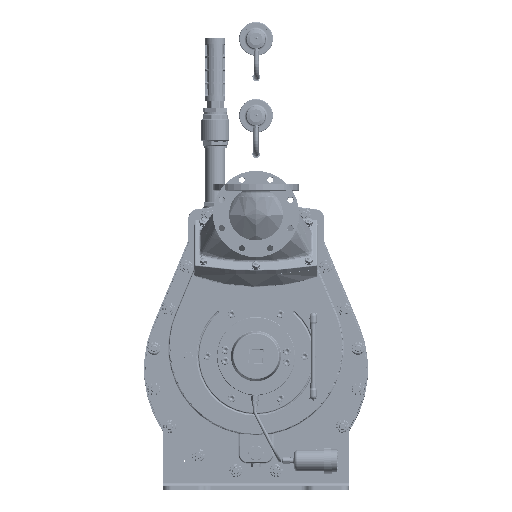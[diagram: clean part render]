
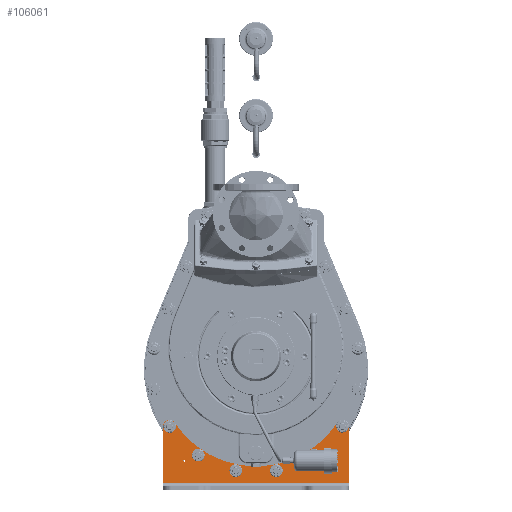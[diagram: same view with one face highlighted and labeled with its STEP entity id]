
A CAD part, top view. The second image highlights one B-rep face of the part: STEP entity #106061.
In plain terms, the highlighted planar face has unit normal (0, 0, 1) as drawn and (1, 0, 0) by its records, which use the part's own axes.
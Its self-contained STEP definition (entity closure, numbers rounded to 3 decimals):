
#12821=FACE_BOUND('',#22132,.T.);
#12822=FACE_BOUND('',#22133,.T.);
#12823=FACE_BOUND('',#22134,.T.);
#12824=FACE_BOUND('',#22135,.T.);
#12825=FACE_BOUND('',#22136,.T.);
#12826=FACE_BOUND('',#22137,.T.);
#12827=FACE_BOUND('',#22138,.T.);
#12828=FACE_BOUND('',#22139,.T.);
#13605=PLANE('',#113740);
#15881=FACE_OUTER_BOUND('',#22131,.T.);
#22131=EDGE_LOOP('',(#72495,#72496,#72497,#72498,#72499,#72500,#72501,#72502,
#72503,#72504));
#22132=EDGE_LOOP('',(#72505));
#22133=EDGE_LOOP('',(#72506));
#22134=EDGE_LOOP('',(#72507));
#22135=EDGE_LOOP('',(#72508));
#22136=EDGE_LOOP('',(#72509));
#22137=EDGE_LOOP('',(#72510));
#22138=EDGE_LOOP('',(#72511));
#22139=EDGE_LOOP('',(#72512));
#29164=LINE('',#146433,#35905);
#29166=LINE('',#146439,#35907);
#29167=LINE('',#146443,#35908);
#29168=LINE('',#146451,#35909);
#29169=LINE('',#146454,#35910);
#35905=VECTOR('',#122393,10.);
#35907=VECTOR('',#122399,10.);
#35908=VECTOR('',#122402,10.);
#35909=VECTOR('',#122409,10.);
#35910=VECTOR('',#122412,10.);
#42648=CIRCLE('',#113741,15.);
#42649=CIRCLE('',#113742,15.);
#42650=CIRCLE('',#113743,231.);
#42651=CIRCLE('',#113744,15.);
#42652=CIRCLE('',#113745,15.);
#42653=CIRCLE('',#113746,2.067);
#42654=CIRCLE('',#113747,2.067);
#42655=CIRCLE('',#113748,9.);
#42656=CIRCLE('',#113749,9.);
#42657=CIRCLE('',#113750,9.);
#42658=CIRCLE('',#113751,9.);
#42659=CIRCLE('',#113752,9.);
#42660=CIRCLE('',#113753,9.);
#46196=VERTEX_POINT('',#146430);
#46197=VERTEX_POINT('',#146432);
#46199=VERTEX_POINT('',#146438);
#46200=VERTEX_POINT('',#146440);
#46201=VERTEX_POINT('',#146442);
#46202=VERTEX_POINT('',#146444);
#46203=VERTEX_POINT('',#146446);
#46204=VERTEX_POINT('',#146448);
#46205=VERTEX_POINT('',#146450);
#46206=VERTEX_POINT('',#146452);
#46207=VERTEX_POINT('',#146455);
#46208=VERTEX_POINT('',#146457);
#46209=VERTEX_POINT('',#146459);
#46210=VERTEX_POINT('',#146461);
#46211=VERTEX_POINT('',#146463);
#46212=VERTEX_POINT('',#146465);
#46213=VERTEX_POINT('',#146467);
#46214=VERTEX_POINT('',#146469);
#56503=EDGE_CURVE('',#46196,#46197,#29164,.T.);
#56506=EDGE_CURVE('',#46199,#46196,#29166,.T.);
#56507=EDGE_CURVE('',#46200,#46199,#42648,.T.);
#56508=EDGE_CURVE('',#46201,#46200,#29167,.T.);
#56509=EDGE_CURVE('',#46202,#46201,#42649,.T.);
#56510=EDGE_CURVE('',#46202,#46203,#42650,.T.);
#56511=EDGE_CURVE('',#46204,#46203,#42651,.T.);
#56512=EDGE_CURVE('',#46205,#46204,#29168,.T.);
#56513=EDGE_CURVE('',#46206,#46205,#42652,.T.);
#56514=EDGE_CURVE('',#46197,#46206,#29169,.T.);
#56515=EDGE_CURVE('',#46207,#46207,#42653,.T.);
#56516=EDGE_CURVE('',#46208,#46208,#42654,.T.);
#56517=EDGE_CURVE('',#46209,#46209,#42655,.T.);
#56518=EDGE_CURVE('',#46210,#46210,#42656,.T.);
#56519=EDGE_CURVE('',#46211,#46211,#42657,.T.);
#56520=EDGE_CURVE('',#46212,#46212,#42658,.T.);
#56521=EDGE_CURVE('',#46213,#46213,#42659,.T.);
#56522=EDGE_CURVE('',#46214,#46214,#42660,.T.);
#72495=ORIENTED_EDGE('',*,*,#56503,.F.);
#72496=ORIENTED_EDGE('',*,*,#56506,.F.);
#72497=ORIENTED_EDGE('',*,*,#56507,.F.);
#72498=ORIENTED_EDGE('',*,*,#56508,.F.);
#72499=ORIENTED_EDGE('',*,*,#56509,.F.);
#72500=ORIENTED_EDGE('',*,*,#56510,.T.);
#72501=ORIENTED_EDGE('',*,*,#56511,.F.);
#72502=ORIENTED_EDGE('',*,*,#56512,.F.);
#72503=ORIENTED_EDGE('',*,*,#56513,.F.);
#72504=ORIENTED_EDGE('',*,*,#56514,.F.);
#72505=ORIENTED_EDGE('',*,*,#56515,.T.);
#72506=ORIENTED_EDGE('',*,*,#56516,.T.);
#72507=ORIENTED_EDGE('',*,*,#56517,.T.);
#72508=ORIENTED_EDGE('',*,*,#56518,.T.);
#72509=ORIENTED_EDGE('',*,*,#56519,.T.);
#72510=ORIENTED_EDGE('',*,*,#56520,.T.);
#72511=ORIENTED_EDGE('',*,*,#56521,.T.);
#72512=ORIENTED_EDGE('',*,*,#56522,.T.);
#106061=ADVANCED_FACE('',(#15881,#12821,#12822,#12823,#12824,#12825,#12826,
#12827,#12828),#13605,.T.);
#113740=AXIS2_PLACEMENT_3D('',#146437,#122397,#122398);
#113741=AXIS2_PLACEMENT_3D('',#146441,#122400,#122401);
#113742=AXIS2_PLACEMENT_3D('',#146445,#122403,#122404);
#113743=AXIS2_PLACEMENT_3D('',#146447,#122405,#122406);
#113744=AXIS2_PLACEMENT_3D('',#146449,#122407,#122408);
#113745=AXIS2_PLACEMENT_3D('',#146453,#122410,#122411);
#113746=AXIS2_PLACEMENT_3D('',#146456,#122413,#122414);
#113747=AXIS2_PLACEMENT_3D('',#146458,#122415,#122416);
#113748=AXIS2_PLACEMENT_3D('',#146460,#122417,#122418);
#113749=AXIS2_PLACEMENT_3D('',#146462,#122419,#122420);
#113750=AXIS2_PLACEMENT_3D('',#146464,#122421,#122422);
#113751=AXIS2_PLACEMENT_3D('',#146466,#122423,#122424);
#113752=AXIS2_PLACEMENT_3D('',#146468,#122425,#122426);
#113753=AXIS2_PLACEMENT_3D('',#146470,#122427,#122428);
#122393=DIRECTION('',(0.,0.,1.));
#122397=DIRECTION('center_axis',(1.,0.,0.));
#122398=DIRECTION('ref_axis',(0.,0.,-1.));
#122399=DIRECTION('',(0.,-1.,0.));
#122400=DIRECTION('center_axis',(-1.,0.,0.));
#122401=DIRECTION('ref_axis',(0.,0.707,-0.707));
#122402=DIRECTION('',(0.,0.,-1.));
#122403=DIRECTION('center_axis',(-1.,0.,0.));
#122404=DIRECTION('ref_axis',(0.,0.881,0.473));
#122405=DIRECTION('center_axis',(-1.,0.,0.));
#122406=DIRECTION('ref_axis',(0.,0.,-1.));
#122407=DIRECTION('center_axis',(-1.,0.,0.));
#122408=DIRECTION('ref_axis',(0.,0.881,-0.473));
#122409=DIRECTION('',(0.,0.,-1.));
#122410=DIRECTION('center_axis',(-1.,0.,0.));
#122411=DIRECTION('ref_axis',(0.,0.707,0.707));
#122412=DIRECTION('',(0.,1.,0.));
#122413=DIRECTION('center_axis',(-1.,0.,0.));
#122414=DIRECTION('ref_axis',(0.,0.,
-1.));
#122415=DIRECTION('center_axis',(-1.,0.,0.));
#122416=DIRECTION('ref_axis',(0.,0.,
-1.));
#122417=DIRECTION('center_axis',(-1.,0.,0.));
#122418=DIRECTION('ref_axis',(0.,0.,-1.));
#122419=DIRECTION('center_axis',(-1.,0.,0.));
#122420=DIRECTION('ref_axis',(0.,0.,-1.));
#122421=DIRECTION('center_axis',(-1.,0.,0.));
#122422=DIRECTION('ref_axis',(0.,0.,-1.));
#122423=DIRECTION('center_axis',(-1.,0.,0.));
#122424=DIRECTION('ref_axis',(0.,0.,-1.));
#122425=DIRECTION('center_axis',(-1.,0.,0.));
#122426=DIRECTION('ref_axis',(0.,0.,-1.));
#122427=DIRECTION('center_axis',(-1.,0.,0.));
#122428=DIRECTION('ref_axis',(0.,0.,-1.));
#146430=CARTESIAN_POINT('',(8.,16.,-220.));
#146432=CARTESIAN_POINT('',(8.,16.,220.));
#146433=CARTESIAN_POINT('',(8.,16.,0.));
#146437=CARTESIAN_POINT('Origin',(8.,58.,0.));
#146438=CARTESIAN_POINT('',(8.,150.,-220.));
#146439=CARTESIAN_POINT('',(8.,0.,-220.));
#146440=CARTESIAN_POINT('',(8.,165.,-205.));
#146441=CARTESIAN_POINT('Origin',(8.,150.,-205.));
#146442=CARTESIAN_POINT('',(8.,165.,-204.988));
#146443=CARTESIAN_POINT('',(8.,165.,-220.));
#146444=CARTESIAN_POINT('',(8.,158.293,-192.489));
#146445=CARTESIAN_POINT('Origin',(8.,150.,-204.988));
#146446=CARTESIAN_POINT('',(8.,158.293,192.489));
#146447=CARTESIAN_POINT('Origin',(8.,286.,0.));
#146448=CARTESIAN_POINT('',(8.,165.,204.988));
#146449=CARTESIAN_POINT('Origin',(8.,150.,204.988));
#146450=CARTESIAN_POINT('',(8.,165.,205.));
#146451=CARTESIAN_POINT('',(8.,165.,-220.));
#146452=CARTESIAN_POINT('',(8.,150.,220.));
#146453=CARTESIAN_POINT('Origin',(8.,150.,205.));
#146454=CARTESIAN_POINT('',(8.,165.,220.));
#146455=CARTESIAN_POINT('',(8.,68.,-167.933));
#146456=CARTESIAN_POINT('Origin',(8.,68.,-170.));
#146457=CARTESIAN_POINT('',(8.,68.,172.067));
#146458=CARTESIAN_POINT('Origin',(8.,68.,170.));
#146459=CARTESIAN_POINT('',(8.,149.33,213.542));
#146460=CARTESIAN_POINT('Origin',(8.,149.33,204.542));
#146461=CARTESIAN_POINT('',(8.,44.727,56.992));
#146462=CARTESIAN_POINT('Origin',(8.,44.727,47.992));
#146463=CARTESIAN_POINT('',(8.,81.458,-127.67));
#146464=CARTESIAN_POINT('Origin',(8.,81.458,-136.67));
#146465=CARTESIAN_POINT('',(8.,149.33,-195.542));
#146466=CARTESIAN_POINT('Origin',(8.,149.33,-204.542));
#146467=CARTESIAN_POINT('',(8.,44.727,-38.992));
#146468=CARTESIAN_POINT('Origin',(8.,44.727,-47.992));
#146469=CARTESIAN_POINT('',(8.,81.458,145.67));
#146470=CARTESIAN_POINT('Origin',(8.,81.458,136.67));
